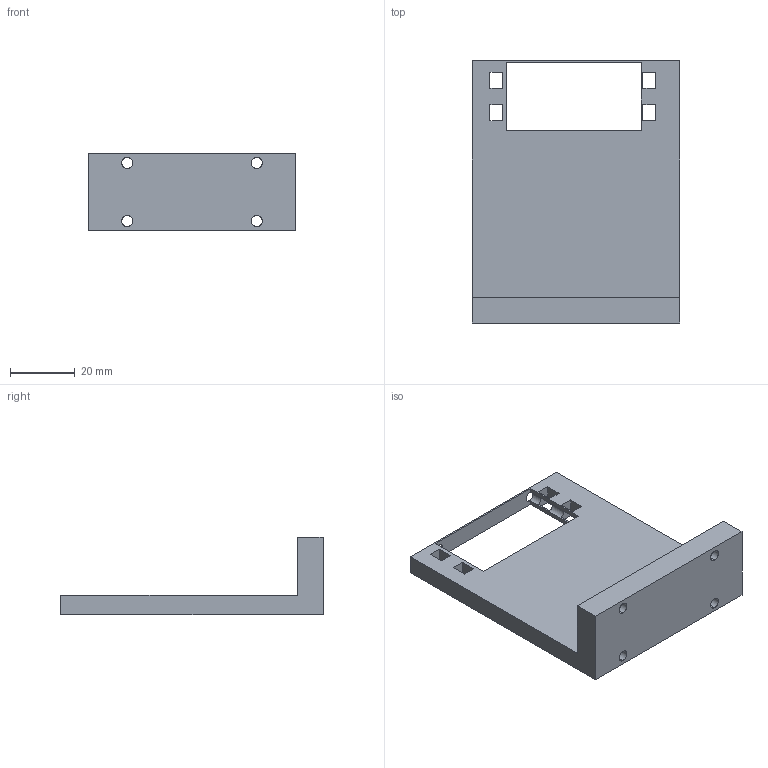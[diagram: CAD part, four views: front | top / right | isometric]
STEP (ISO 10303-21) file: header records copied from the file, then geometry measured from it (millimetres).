
FILE_DESCRIPTION (( 'STEP AP203' ), '1' );
FILE_NAME ('V2_07_servo_stand.STEP', '2026-09-18T10:17:50', ( '15300530775@163.com' ), ( '' ), 'SwSTEP 2.0', 'SolidWorks 2026', '' );
FILE_SCHEMA (( 'CONFIG_CONTROL_DESIGN' ));
Length unit declared in the file: millimetre
Products named in the file (1): V2_07_servo_stand
Bounding box: 64 x 81 x 24 mm (x, y, z)
Volume: 33290.7 mm3; surface area: 15276 mm2
Topology: 1 solids, 1 shells, 42 faces, 138 edges, 92 vertices
Faces by surface type: plane 32, cylinder 10
Entity records: 1755 total; most frequent: CARTESIAN_POINT 409, ORIENTED_EDGE 276, DIRECTION 240, EDGE_CURVE 138, VECTOR 106, LINE 106, VERTEX_POINT 92, AXIS2_PLACEMENT_3D 67
